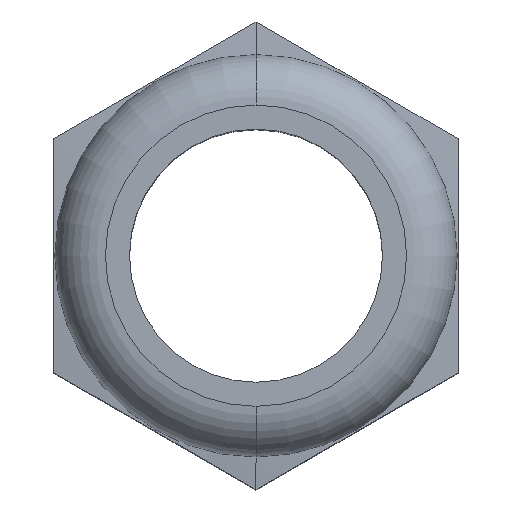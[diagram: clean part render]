
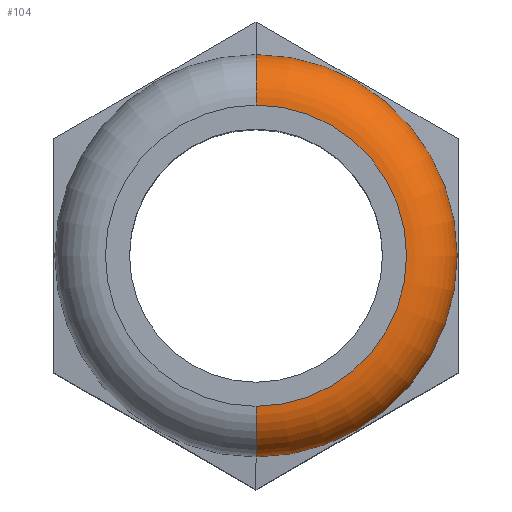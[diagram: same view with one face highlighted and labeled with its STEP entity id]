
A CAD part, top view. The second image highlights one B-rep face of the part: STEP entity #104.
In plain terms, the highlighted toroidal (fillet/blend) face has major radius 11.9 mm and minor radius 4 mm.
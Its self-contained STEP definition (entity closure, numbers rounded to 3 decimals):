
#74 = ORIENTED_EDGE ( 'NONE', *, *, #301, .F. ) ;
#76 = VERTEX_POINT ( 'NONE', #821 ) ;
#82 = ORIENTED_EDGE ( 'NONE', *, *, #88, .T. ) ;
#88 = EDGE_CURVE ( 'NONE', #76, #99, #839, .T. ) ;
#89 = ORIENTED_EDGE ( 'NONE', *, *, #90, .F. ) ;
#90 = EDGE_CURVE ( 'NONE', #97, #302, #962, .T. ) ;
#97 = VERTEX_POINT ( 'NONE', #940 ) ;
#98 = EDGE_CURVE ( 'NONE', #97, #76, #939, .T. ) ;
#99 = VERTEX_POINT ( 'NONE', #994 ) ;
#104 = ADVANCED_FACE ( 'NONE', ( #985 ), #983, .T. ) ;
#106 = EDGE_LOOP ( 'NONE', ( #107, #82, #74, #89 ) ) ;
#107 = ORIENTED_EDGE ( 'NONE', *, *, #98, .T. ) ;
#301 = EDGE_CURVE ( 'NONE', #302, #99, #1388, .T. ) ;
#302 = VERTEX_POINT ( 'NONE', #1384 ) ;
#821 = CARTESIAN_POINT ( 'NONE',  ( 0., -11.9, 31. ) ) ;
#836 = DIRECTION ( 'NONE',  ( 0., 1., 0. ) ) ;
#837 = DIRECTION ( 'NONE',  ( 1., 0., 0. ) ) ;
#838 = AXIS2_PLACEMENT_3D ( 'NONE', #844, #837, #836 ) ;
#839 = CIRCLE ( 'NONE', #838, 4. ) ;
#844 = CARTESIAN_POINT ( 'NONE',  ( 0., -11.9, 27. ) ) ;
#938 = AXIS2_PLACEMENT_3D ( 'NONE', #997, #996, #995 ) ;
#939 = CIRCLE ( 'NONE', #938, 11.9 ) ;
#940 = CARTESIAN_POINT ( 'NONE',  ( 0., 11.9, 31. ) ) ;
#958 = DIRECTION ( 'NONE',  ( 0., 0., 1. ) ) ;
#959 = DIRECTION ( 'NONE',  ( -1., 0., 0. ) ) ;
#960 = CARTESIAN_POINT ( 'NONE',  ( 0., 11.9, 27. ) ) ;
#961 = AXIS2_PLACEMENT_3D ( 'NONE', #960, #959, #958 ) ;
#962 = CIRCLE ( 'NONE', #961, 4. ) ;
#980 = DIRECTION ( 'NONE',  ( 0., 1., 0. ) ) ;
#981 = DIRECTION ( 'NONE',  ( 0., 0., -1. ) ) ;
#982 = AXIS2_PLACEMENT_3D ( 'NONE', #984, #981, #980 ) ;
#983 = TOROIDAL_SURFACE ( 'NONE', #982, 11.9, 4. ) ;
#984 = CARTESIAN_POINT ( 'NONE',  ( 0., 0., 27. ) ) ;
#985 = FACE_OUTER_BOUND ( 'NONE', #106, .T. ) ;
#994 = CARTESIAN_POINT ( 'NONE',  ( 0., -15.9, 27. ) ) ;
#995 = DIRECTION ( 'NONE',  ( 0., 1., 0. ) ) ;
#996 = DIRECTION ( 'NONE',  ( 0., 0., -1. ) ) ;
#997 = CARTESIAN_POINT ( 'NONE',  ( 0., 0., 31. ) ) ;
#1384 = CARTESIAN_POINT ( 'NONE',  ( 0., 15.9, 27. ) ) ;
#1385 = DIRECTION ( 'NONE',  ( 0., 1., 0. ) ) ;
#1386 = DIRECTION ( 'NONE',  ( 0., 0., -1. ) ) ;
#1387 = AXIS2_PLACEMENT_3D ( 'NONE', #1393, #1386, #1385 ) ;
#1388 = CIRCLE ( 'NONE', #1387, 15.9 ) ;
#1393 = CARTESIAN_POINT ( 'NONE',  ( 0., 0., 27. ) ) ;
